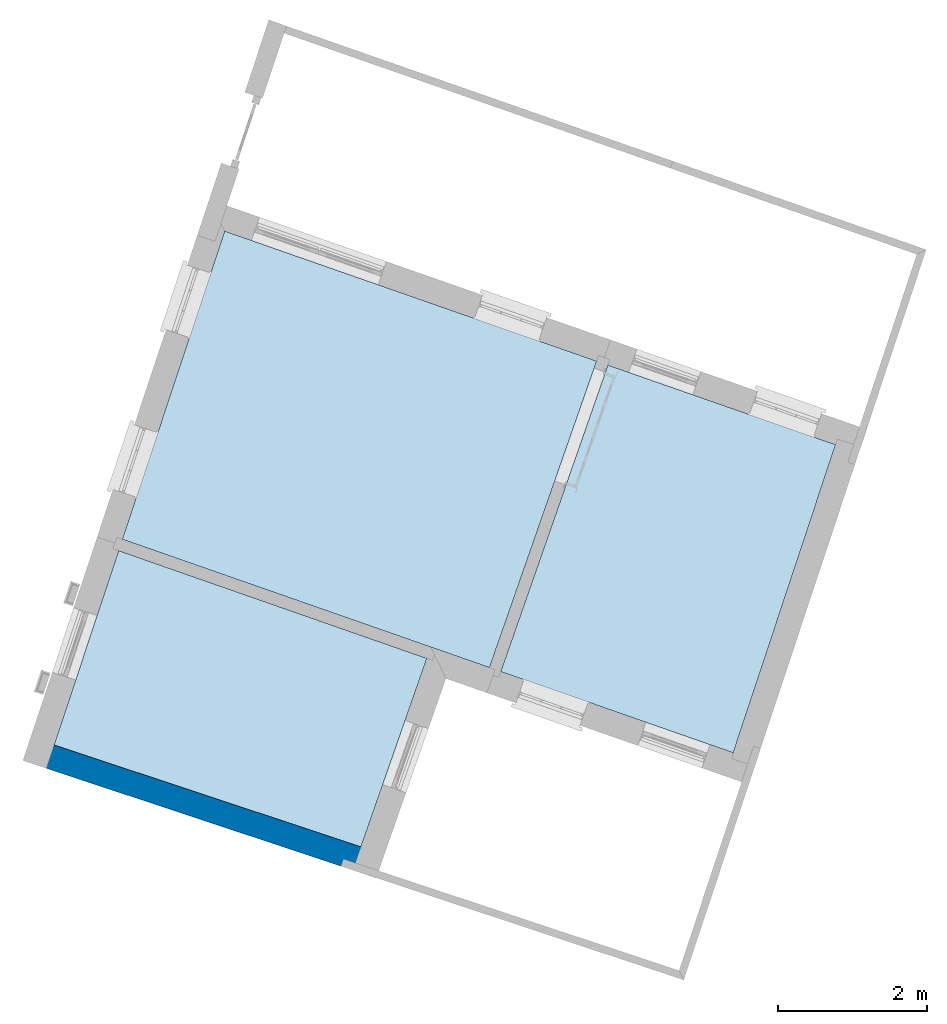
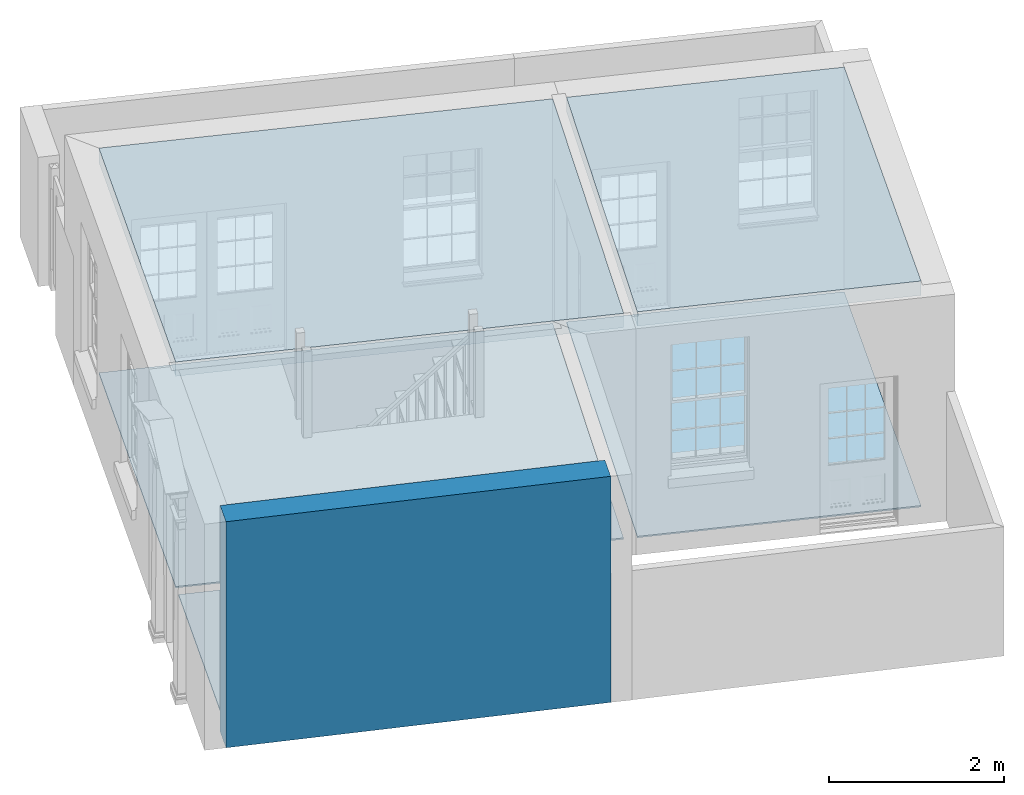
# One storey, part 1 of 10: 5 slabs, 1 wall.
"""IFC4 building model written with IfcOpenShell, lengths in metres."""

from ifc_helpers import new_model, si_unit, frame, origin_with_axes, place, context, subcontext, project, spatial, polyline, outline, extrude, material, layer, layer_set, layer_usage, type_object, element, save


model = new_model("IFC4")

# Units and contexts
model_context = context("Model", 3, world=origin_with_axes())
body_context = subcontext(model_context, "Body", "Model", "MODEL_VIEW")
ifc_project = project(units=[si_unit("PLANEANGLEUNIT", "RADIAN"), si_unit("MASSUNIT", "GRAM", prefix="KILO"), si_unit("FORCEUNIT", "NEWTON", prefix="KILO"), si_unit("LENGTHUNIT", "METRE"), si_unit("AREAUNIT", "SQUARE_METRE"), si_unit("VOLUMEUNIT", "CUBIC_METRE")], contexts=[model_context, model_context])

# Sites, building, storey
site_1_placement = place(None, origin_with_axes())
site_1 = spatial("IfcSite", under=ifc_project, at=site_1_placement, Name="Tamar")
site_2_placement = place(site_1_placement, origin_with_axes())
site_2 = spatial("IfcSite", under=site_1, at=site_2_placement, Name="Site plot-15", CompositionType="ELEMENT")
building_placement = place(None, origin_with_axes())
building = spatial("IfcBuilding", under=site_2, at=building_placement, Name="Building plot-15", CompositionType="ELEMENT")
storey_placement = place(None, frame((0.0, 0.0, 26.8), z_axis=(0.0, 0.0, 1.0), x_axis=(1.0, 0.0, 0.0)))
storey = spatial("IfcBuildingStorey", under=building, at=storey_placement, Name="plot-15 0", CompositionType="ELEMENT", Elevation=26.8)

# Slabs
slab_1_placement = place(storey_placement, frame((256.420174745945, 304.041440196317, 0.0)))
element("IfcSlab", 1, at=slab_1_placement, inside=storey, Name="My Slab", ObjectType="Slab", PredefinedType="FLOOR", context=body_context, shape_type="SweptSolid", body=[
    extrude(outline(polyline([(0.0, 0.0), (4.10550869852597, -1.36278889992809), (4.98703343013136, 1.15884342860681), (0.863204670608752, 2.60047193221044), (0.0, 0.0)])), origin_with_axes(), (0.0, 0.0, 1.0), 0.02),
])
slab_2_placement = place(storey_placement, frame((266.875618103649, 308.060039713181, 2.95)))
element("IfcSlab", 2, at=slab_2_placement, inside=storey, Name="My Slab", ObjectType="Slab", PredefinedType="FLOOR", context=body_context, shape_type="SweptSolid", body=[
    extrude(outline(polyline([(0.0, 0.0), (-3.04568818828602, 1.06472677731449), (-4.47925920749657, -3.03605326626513), (-1.36874212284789, -4.12344325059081), (0.0, 0.0)])), origin_with_axes(), (0.0, 0.0, 1.0), 0.2),
])
slab_3_placement = place(storey_placement, frame((266.875618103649, 308.060039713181, 0.0)))
element("IfcSlab", 3, at=slab_3_placement, inside=storey, Name="My Slab", ObjectType="Slab", PredefinedType="FLOOR", context=body_context, shape_type="SweptSolid", body=[
    extrude(outline(polyline([(0.0, 0.0), (-3.04568818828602, 1.06472677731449), (-4.47925920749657, -3.03605326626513), (-1.36874212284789, -4.12344325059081), (0.0, 0.0)])), origin_with_axes(), (0.0, 0.0, 1.0), 0.02),
])
slab_4_placement = place(storey_placement, frame((263.678893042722, 309.177566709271, 2.95)))
element("IfcSlab", 4, at=slab_4_placement, inside=storey, Name="My Slab", ObjectType="Slab", PredefinedType="FLOOR", context=body_context, shape_type="SweptSolid", body=[
    extrude(outline(polyline([(0.0, 0.0), (-4.97635901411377, 1.73966025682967), (-6.34510113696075, -2.38378299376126), (-1.43357101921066, -4.10078004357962), (0.0, 0.0)])), origin_with_axes(), (0.0, 0.0, 1.0), 0.2),
])
slab_5_placement = place(storey_placement, frame((263.678893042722, 309.177566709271, 0.0)))
element("IfcSlab", 5, at=slab_5_placement, inside=storey, Name="My Slab", ObjectType="Slab", PredefinedType="FLOOR", context=body_context, shape_type="SweptSolid", body=[
    extrude(outline(polyline([(0.0, 0.0), (-4.97635901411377, 1.73966025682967), (-6.34510113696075, -2.38378299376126), (-1.43357101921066, -4.10078004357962), (0.0, 0.0)])), origin_with_axes(), (0.0, 0.0, 1.0), 0.02),
])

# Wall
ifc_material = material(Name="Masonry")
ifc_layer = layer(ifc_material, 0.33, ventilated=False)
ifc_layer_set = layer_set([ifc_layer], Name="party_0.08_0.25")
ifc_layer_usage = layer_usage(ifc_layer_set, "AXIS2", "POSITIVE", -0.25)
wall_type = type_object("IfcWallType", Name="party_0.08_0.25", PredefinedType="SOLIDWALL", material=ifc_layer_set)
wall_placement = place(storey_placement, frame((256.319045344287, 303.990716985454, 0.0), z_axis=(0.0, 0.0, 1.0), x_axis=(0.949078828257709, -0.315038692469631, 0.0)))
element("IfcWall", 6, at=wall_placement, inside=storey, type_object=wall_type, material=ifc_layer_usage, Name="party", context=body_context, shape_type="SweptSolid", body=[
    extrude(outline(polyline([(-1.07598238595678e-14, 0.0799999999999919), (-1.80315372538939e-14, -0.249999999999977), (4.48452790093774, -0.249999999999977), (4.48452790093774, 0.0799999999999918), (-1.07598238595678e-14, 0.0799999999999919)])), origin_with_axes(), (0.0, 0.0, 1.0), 3.15),
])

save(model, "model.ifc")
